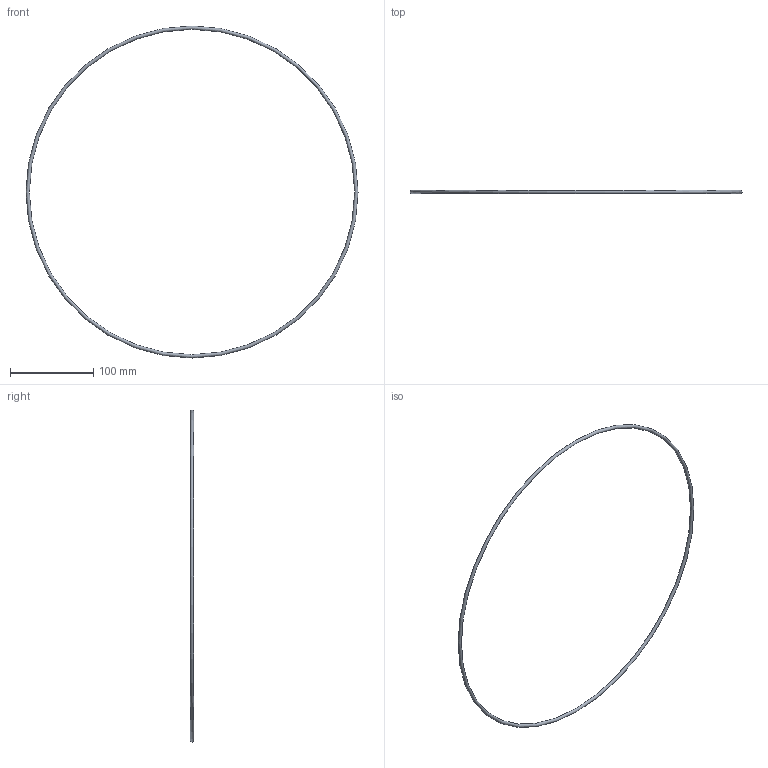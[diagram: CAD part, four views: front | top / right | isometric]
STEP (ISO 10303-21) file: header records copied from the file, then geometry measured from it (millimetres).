
FILE_DESCRIPTION( ( 'STEP AP203' ), '1' );
FILE_NAME( 'C:/Temp/Ganter_Step_05_03_2020/data/3_5/or638/O-Ring OR638-390.00-4.00-70.stp', '2020-03-12T13:44:33', ( 'License CC BY-ND 4.0' ), ( 'CADENAS' ), ' ', 'PARTsolutions', ' ' );
FILE_SCHEMA( ( 'CONFIG_CONTROL_DESIGN' ) );
Length unit declared in the file: millimetre
Products named in the file (1): _O-Ring OR638-390.00-4.00-70
Bounding box: 398 x 4 x 398 mm (x, y, z)
Volume: 15554.5 mm3; surface area: 15554.5 mm2
Topology: 1 solids, 1 shells, 1 faces, 2 edges, 1 vertices
Faces by surface type: torus 1
Entity records: 62 total; most frequent: CC_DESIGN_PERSON_AND_ORGANIZATION_ASSIGNMENT 5, PERSON_AND_ORGANIZATION_ROLE 4, DIRECTION 4, CARTESIAN_POINT 3, DATE_TIME_ROLE 2, CC_DESIGN_DATE_AND_TIME_ASSIGNMENT 2, AXIS2_PLACEMENT_3D 2, DIMENSIONAL_EXPONENTS 2
